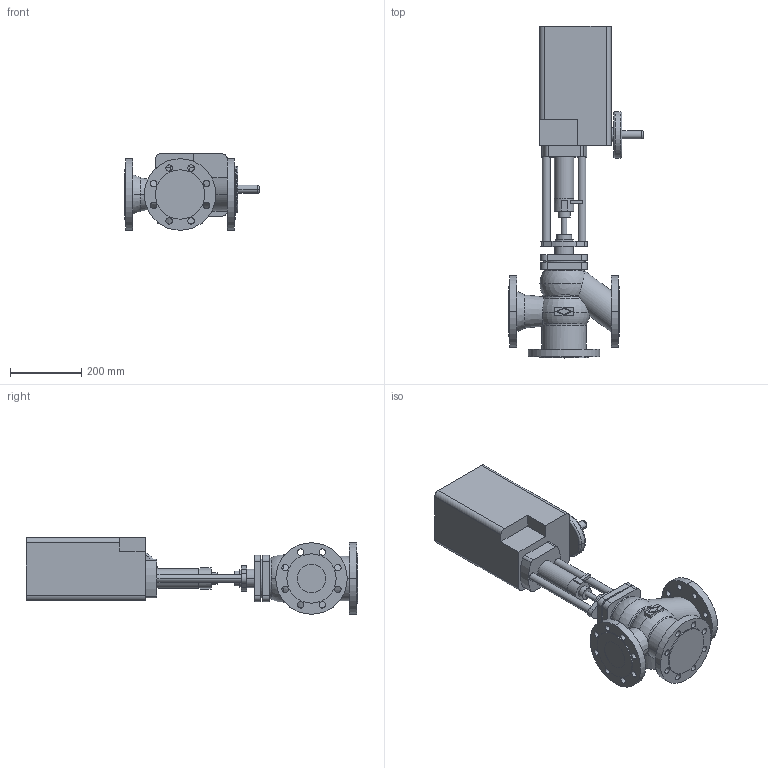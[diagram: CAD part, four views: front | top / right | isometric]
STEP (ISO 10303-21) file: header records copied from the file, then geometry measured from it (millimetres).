
FILE_DESCRIPTION(('OneSpaceDesigner STEP Export'),'2;1');
FILE_NAME('c000002422.stp','2006-09-19T12:10:19',(''),(''),'OneSpace Designer STEP processor for AP214 (Solid Model)','OneSpace Designer 13.20A 18-Aug-2005 (C) CoCreate Software GmbH','');
FILE_SCHEMA(('AUTOMOTIVE_DESIGN { 1 0 10303 214 1 1 1 1 }'));
Length unit declared in the file: millimetre
Products named in the file (2): 1; 2
Bounding box: 376.6 x 929 x 214 mm (x, y, z)
Volume: 19741713.4 mm3; surface area: 862130.1 mm2
Topology: 2 solids, 2 shells, 233 faces, 594 edges, 390 vertices
Faces by surface type: cylinder 120, plane 86, torus 19, sphere 4, cone 4
Entity records: 6633 total; most frequent: CARTESIAN_POINT 1385, ORIENTED_EDGE 1180, DIRECTION 951, EDGE_CURVE 590, VERTEX_POINT 390, AXIS2_PLACEMENT_3D 346, EDGE_LOOP 310, VECTOR 259
